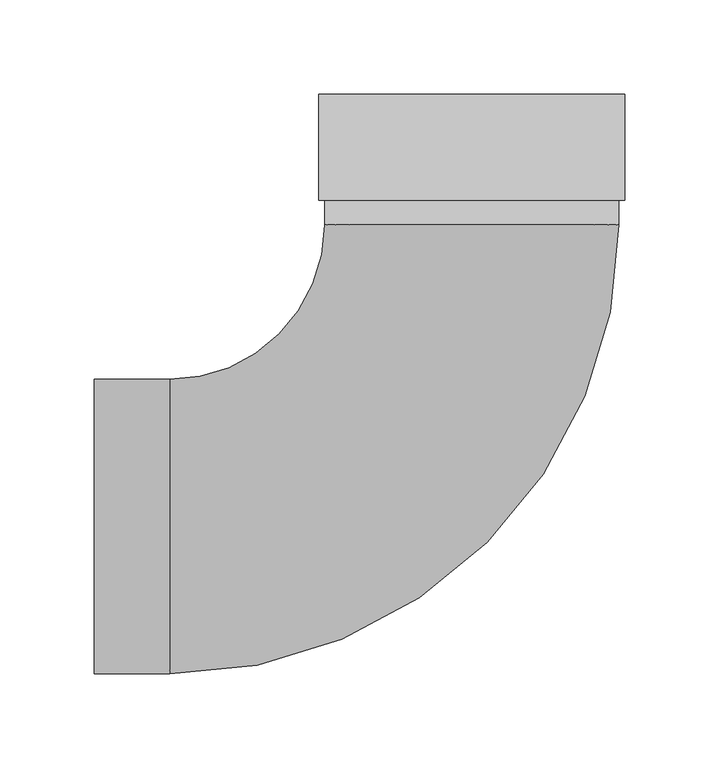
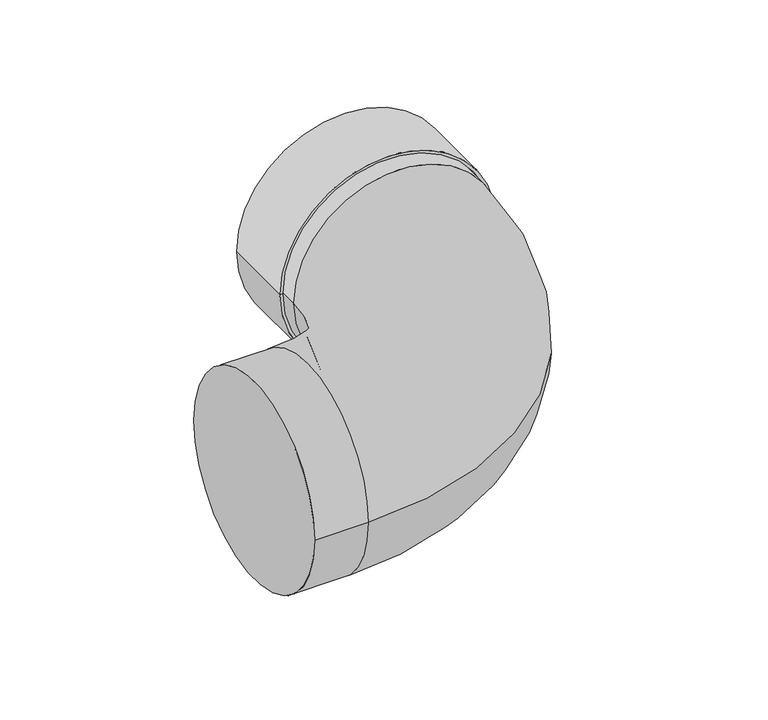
"""IFC4 building model written with IfcOpenShell, lengths in millimetres: duct fitting geometry, NLRS_57_DUF_UN_bend EPS_M&G : ø125 - ø200."""

from ifc_helpers import new_model, si_unit, point, frame, origin, place, context, project, spatial, polyline, circle_curve, ellipse_curve, trimmed, source, transform, mapped, element, save
from ifc_brep_helpers import plane_surface, cylinder_surface, revolved_surface, advanced_brep


def duct_fitting_42a7da3b(model_context):
    return source(origin(), model_context, "Body", "AdvancedBrep", [
        advanced_brep(
        [(81.0, 173.0, 0.0), (-81.0, 173.0, 0.0), (-81.0, 229.0, 0.0), (81.0, 229.0, 0.0), (79.0, 173.0, 0.0), (-79.0, 173.0, 0.0), (79.0, 200.0, 0.0), (-79.0, 200.0, 0.0), (77.0, 200.0, 0.0), (-77.0, 200.0, 0.0), (79.0, 202.0, 0.0), (-79.0, 202.0, 0.0), (-77.0, 202.0, 0.0), (77.0, 202.0, 0.0), (79.0, 229.0, 0.0), (-79.0, 229.0, 0.0)],
        [
            (0, 1, circle_curve(frame((0.0, 173.0, 0.0), z_axis=(0.0, 1.0, 0.0), x_axis=(-1.0, 0.0, 0.0)), 81.0)),
            (1, 2),
            (2, 3, circle_curve(frame((0.0, 229.0, 0.0), z_axis=(0.0, -1.0, 0.0), x_axis=(-1.0, 0.0, 0.0)), 81.0)),
            (3, 0),
            (1, 0, circle_curve(frame((0.0, 173.0, 0.0), z_axis=(0.0, 1.0, 0.0), x_axis=(-1.0, 0.0, 0.0)), 81.0)),
            (3, 2, circle_curve(frame((0.0, 229.0, 0.0), z_axis=(0.0, -1.0, 0.0), x_axis=(-1.0, 0.0, 0.0)), 81.0)),
            (4, 5, circle_curve(frame((0.0, 173.0, 0.0), z_axis=(0.0, 1.0, 0.0), x_axis=(-1.0, 0.0, 0.0)), 79.0)),
            (5, 1),
            (0, 4),
            (5, 4, circle_curve(frame((0.0, 173.0, 0.0), z_axis=(0.0, 1.0, 0.0), x_axis=(-1.0, 0.0, 0.0)), 79.0)),
            (6, 7, circle_curve(frame((0.0, 200.0, 0.0), z_axis=(0.0, 1.0, 0.0), x_axis=(-1.0, 0.0, 0.0)), 79.0)),
            (7, 5),
            (4, 6),
            (7, 6, circle_curve(frame((0.0, 200.0, 0.0), z_axis=(0.0, 1.0, 0.0), x_axis=(-1.0, 0.0, 0.0)), 79.0)),
            (8, 9, circle_curve(frame((0.0, 200.0, 0.0), z_axis=(0.0, 1.0, 0.0), x_axis=(-1.0, 0.0, 0.0)), 77.0)),
            (9, 7),
            (6, 8),
            (9, 8, circle_curve(frame((0.0, 200.0, 0.0), z_axis=(0.0, 1.0, 0.0), x_axis=(-1.0, 0.0, 0.0)), 77.0)),
            (10, 11, circle_curve(frame((0.0, 202.0, 0.0), z_axis=(0.0, 1.0, 0.0), x_axis=(-1.0, 0.0, 0.0)), 79.0)),
            (11, 12),
            (12, 13, circle_curve(frame((0.0, 202.0, 0.0), z_axis=(0.0, -1.0, 0.0), x_axis=(-1.0, 0.0, 0.0)), 77.0)),
            (13, 10),
            (11, 10, circle_curve(frame((0.0, 202.0, 0.0), z_axis=(0.0, 1.0, 0.0), x_axis=(-1.0, 0.0, 0.0)), 79.0)),
            (13, 12, circle_curve(frame((0.0, 202.0, 0.0), z_axis=(0.0, -1.0, 0.0), x_axis=(-1.0, 0.0, 0.0)), 77.0)),
            (14, 15, circle_curve(frame((0.0, 229.0, 0.0), z_axis=(0.0, 1.0, 0.0), x_axis=(-1.0, 0.0, 0.0)), 79.0)),
            (15, 11),
            (10, 14),
            (15, 14, circle_curve(frame((0.0, 229.0, 0.0), z_axis=(0.0, 1.0, 0.0), x_axis=(-1.0, 0.0, 0.0)), 79.0)),
            (2, 15),
            (14, 3),
            (12, 9),
            (8, 13),
        ],
        [
            cylinder_surface(frame((0.0, 2176.5, 0.0), z_axis=(0.0, -1.0, 0.0), x_axis=(-1.0, 0.0, 0.0)), 81.0),
            plane_surface(frame((0.0, 173.0, 0.0), z_axis=(0.0, -1.0, 0.0), x_axis=(-1.0, 0.0, 0.0))),
            revolved_surface(polyline([(-79.0, 173.0, 0.0), (-79.0, 200.0, 0.0)]), (0.0, 2176.5, 0.0), (0.0, -1.0, 0.0)),
            plane_surface(frame((0.0, 200.0, 0.0), z_axis=(0.0, -1.0, 0.0), x_axis=(-1.0, 0.0, 0.0))),
            plane_surface(frame((0.0, 202.0, 0.0), z_axis=(0.0, 1.0, 0.0), x_axis=(-1.0, 0.0, 0.0))),
            revolved_surface(polyline([(-79.0, 202.0, 0.0), (-79.0, 229.0, 0.0)]), (0.0, 2176.5, 0.0), (0.0, -1.0, 0.0)),
            plane_surface(frame((0.0, 229.0, 0.0), z_axis=(0.0, 1.0, 0.0), x_axis=(-1.0, 0.0, 0.0))),
            revolved_surface(polyline([(-77.0, 200.0, 0.0), (-77.0, 202.0, 0.0)]), (0.0, 2176.5, 0.0), (0.0, -1.0, 0.0)),
        ],
        [
            (0, [[1, 2, 3, 4]]),
            (0, [[5, -4, 6, -2]]),
            (1, [[7, 8, -1, 9]]),
            (1, [[10, -9, -5, -8]]),
            (2, [[11, 12, -7, 13]]),
            (2, [[14, -13, -10, -12]]),
            (3, [[15, 16, -11, 17]]),
            (3, [[18, -17, -14, -16]]),
            (4, [[19, 20, 21, 22]]),
            (4, [[23, -22, 24, -20]]),
            (5, [[25, 26, -19, 27]]),
            (5, [[28, -27, -23, -26]]),
            (6, [[-3, 29, -25, 30]]),
            (6, [[-6, -30, -28, -29]]),
            (7, [[-21, 31, -15, 32]]),
            (7, [[-24, -32, -18, -31]]),
        ],
    ),
        advanced_brep(
        [(-200.0, -78.0, 0.0), (-200.0, 78.0, 0.0), (-160.0, -78.0, 0.0), (-160.0, 78.0, 0.0), (-78.0, 160.0, 0.0), (78.0, 160.0, 0.0), (78.0, 200.0, 0.0), (-78.0, 200.0, 0.0)],
        [
            (0, 1, circle_curve(frame((-200.0, 0.0, 0.0), z_axis=(-1.0, 0.0, 0.0), x_axis=(0.0, 1.0, 0.0)), 78.0)),
            (1, 0, circle_curve(frame((-200.0, 0.0, 0.0), z_axis=(-1.0, 0.0, 0.0), x_axis=(0.0, 1.0, 0.0)), 78.0)),
            (0, 2),
            (2, 3, circle_curve(frame((-160.0, 0.0, 0.0), z_axis=(-1.0, 0.0, 0.0), x_axis=(0.0, 1.0, 0.0)), 78.0)),
            (3, 1),
            (3, 2, circle_curve(frame((-160.0, 0.0, 0.0), z_axis=(-1.0, 0.0, 0.0), x_axis=(0.0, 1.0, 0.0)), 78.0)),
            (4, 3, circle_curve(frame((-160.0, 160.0, 0.0), z_axis=(0.0, 0.0, -1.0), x_axis=(0.0, -1.0, 0.0)), 82.0)),
            (2, 5, circle_curve(frame((-160.0, 160.0, 0.0), z_axis=(0.0, 0.0, 1.0), x_axis=(0.0, -1.0, 0.0)), 238.0)),
            (5, 4, circle_curve(frame((0.0, 160.0, 0.0), z_axis=(0.0, -1.0, 0.0), x_axis=(-1.0, 0.0, 0.0)), 78.0)),
            (4, 5, circle_curve(frame((0.0, 160.0, 0.0), z_axis=(0.0, -1.0, 0.0), x_axis=(-1.0, 0.0, 0.0)), 78.0)),
            (6, 7, circle_curve(frame((0.0, 200.0, 0.0), z_axis=(0.0, 1.0, 0.0), x_axis=(-1.0, 0.0, 0.0)), 78.0)),
            (7, 6, circle_curve(frame((0.0, 200.0, 0.0), z_axis=(0.0, 1.0, 0.0), x_axis=(-1.0, 0.0, 0.0)), 78.0)),
            (5, 6),
            (7, 4),
        ],
        [
            plane_surface(frame((-200.0, 0.0, 0.0), z_axis=(-1.0, 0.0, 0.0), x_axis=(0.0, 0.0, 1.0))),
            cylinder_surface(frame((-200.0, 0.0, 0.0), z_axis=(-1.0, 0.0, 0.0), x_axis=(0.0, 1.0, 0.0)), 78.0),
            revolved_surface(trimmed(ellipse_curve(frame((-160.0, 0.0, 0.0), z_axis=(-1.0, 0.0, 0.0), x_axis=(0.0, 1.0, 0.0)), 78.0, 78.0), [point((-160.0, -78.0, 0.0))], [point((-160.0, 78.0, 0.0))], True, "CARTESIAN"), (-160.0, 160.0, 0.0), (0.0, 0.0, 1.0)),
            revolved_surface(trimmed(ellipse_curve(frame((-160.0, 0.0, 0.0), z_axis=(-1.0, 0.0, 0.0), x_axis=(0.0, 1.0, 0.0)), 78.0, 78.0), [point((-160.0, 78.0, 0.0))], [point((-160.0, -78.0, 0.0))], True, "CARTESIAN"), (-160.0, 160.0, 0.0), (0.0, 0.0, 1.0)),
            plane_surface(frame((0.0, 200.0, 0.0), z_axis=(0.0, 1.0, 0.0), x_axis=(0.0, 0.0, 1.0))),
            cylinder_surface(frame((0.0, 160.0, 0.0), z_axis=(0.0, -1.0, 0.0), x_axis=(-1.0, 0.0, 0.0)), 78.0),
        ],
        [
            (0, [[1, 2]]),
            (1, [[-1, 3, 4, 5]]),
            (1, [[-2, -5, 6, -3]]),
            (2, [[7, -4, 8, 9]]),
            (3, [[-8, -6, -7, 10]]),
            (4, [[11, 12]]),
            (5, [[-9, 13, -12, 14]]),
            (5, [[-10, -14, -11, -13]]),
        ],
    ),
    ])


if __name__ == "__main__":
    model = new_model("IFC4")
    model_context = context("Model", 3, world=origin())
    ifc_project = project(units=[si_unit("LENGTHUNIT", "METRE", prefix="MILLI")], contexts=[model_context])
    site = spatial("IfcSite", under=ifc_project)
    building = spatial("IfcBuilding", under=site)
    placement = place(None, origin())
    duct_fitting_shape = duct_fitting_42a7da3b(model_context)
    element("IfcDuctFitting", 1, ObjectType="NLRS_57_DUF_UN_bend EPS_M&G : ø125 - ø200", at=placement, inside=building, context=model_context, shape_type="MappedRepresentation", body=[
        mapped(duct_fitting_shape, transform((0.0, 0.0, 0.0), x_axis=(1.0, 0.0, 0.0), y_axis=(0.0, 1.0, 0.0), z_axis=(0.0, 0.0, 1.0))),
    ])
    save(model, "model.ifc")
